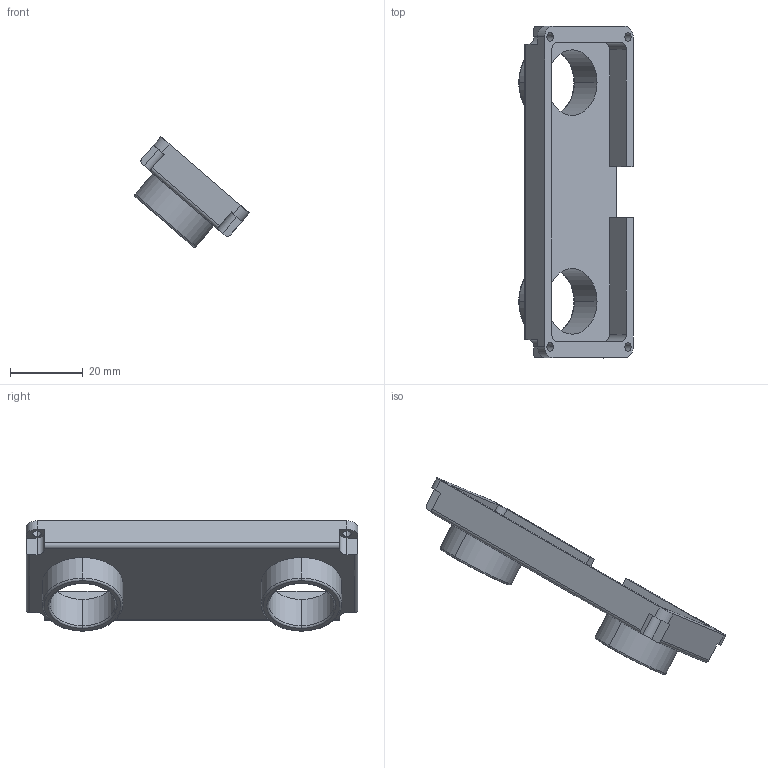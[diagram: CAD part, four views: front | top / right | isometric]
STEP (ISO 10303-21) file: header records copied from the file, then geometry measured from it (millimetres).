
FILE_DESCRIPTION (( 'STEP AP203' ), '1' );
FILE_NAME ('眈儂裔啣_v3.0.step', '2025-08-15T02:26:57', ( '' ), ( '' ), 'SwSTEP 2.0', 'SolidWorks 2023', '' );
FILE_SCHEMA (( 'CONFIG_CONTROL_DESIGN' ));
Length unit declared in the file: millimetre
Products named in the file (1): 相机盖板_v3.0
Bounding box: 31.4 x 91 x 30.25 mm (x, y, z)
Volume: 10910.3 mm3; surface area: 10453.3 mm2
Topology: 1 solids, 1 shells, 68 faces, 184 edges, 120 vertices
Faces by surface type: cylinder 30, plane 28, torus 8, bspline 2
Entity records: 2267 total; most frequent: CARTESIAN_POINT 399, DIRECTION 390, ORIENTED_EDGE 368, EDGE_CURVE 184, AXIS2_PLACEMENT_3D 143, VERTEX_POINT 120, VECTOR 104, LINE 104
